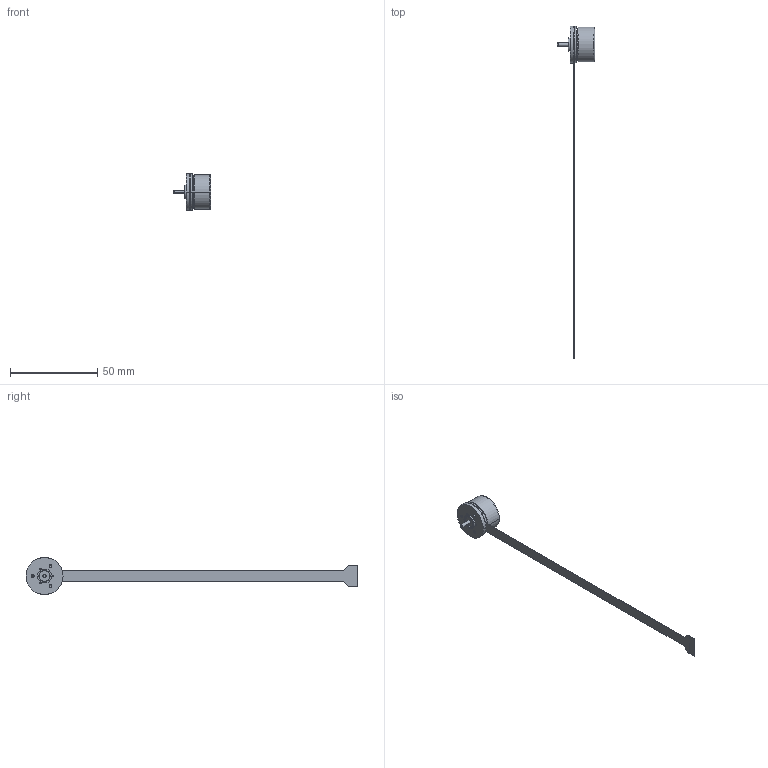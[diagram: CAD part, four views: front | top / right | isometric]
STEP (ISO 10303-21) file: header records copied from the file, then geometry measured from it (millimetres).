
FILE_DESCRIPTION((''),'2;1');
FILE_NAME('966913','2016-10-10T',('mmagpetk'),(''),'CREO PARAMETRIC BY PTC INC, 2016050','CREO PARAMETRIC BY PTC INC, 2016050','');
FILE_SCHEMA(('CONFIG_CONTROL_DESIGN'));
Length unit declared in the file: millimetre
Products named in the file (1): 966913
Bounding box: 21.5 x 190.1 x 21.2 mm (x, y, z)
Volume: 4619.1 mm3; surface area: 4106.6 mm2
Topology: 1 solids, 1 shells, 67 faces, 148 edges, 91 vertices
Faces by surface type: cylinder 29, plane 24, cone 8, revolution 4, torus 2
Entity records: 2392 total; most frequent: CARTESIAN_POINT 340, DIRECTION 340, ORIENTED_EDGE 284, PRESENTATION_STYLE_ASSIGNMENT 143, STYLED_ITEM 143, CURVE_STYLE 142, EDGE_CURVE 142, AXIS2_PLACEMENT_3D 135
